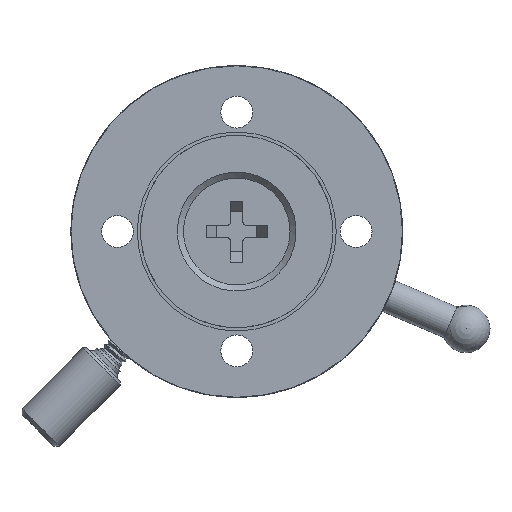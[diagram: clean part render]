
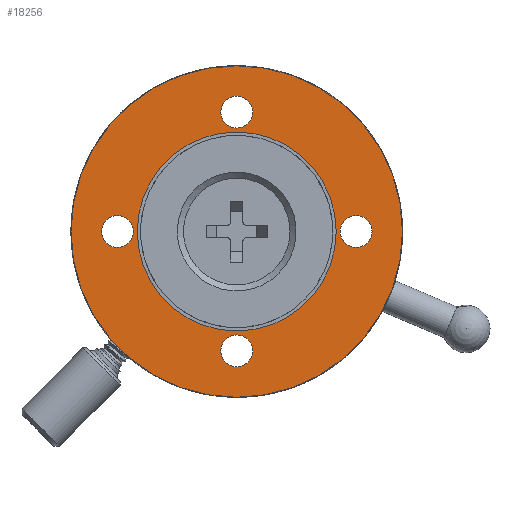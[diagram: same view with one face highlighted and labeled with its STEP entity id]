
A CAD part, front view. The second image highlights one B-rep face of the part: STEP entity #18256.
In plain terms, the highlighted planar face has unit normal (0, -1, 0).
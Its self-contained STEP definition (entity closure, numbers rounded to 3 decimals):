
#609 = CIRCLE ( 'NONE', #14955, 1.2 ) ;
#5056 = DIRECTION ( 'NONE',  ( 0., 1., 0. ) ) ;
#6625 = ORIENTED_EDGE ( 'NONE', *, *, #40249, .T. ) ;
#6843 = FACE_BOUND ( 'NONE', #10046, .T. ) ;
#9526 = CARTESIAN_POINT ( 'NONE',  ( 0., 0., 9. ) ) ;
#10046 = EDGE_LOOP ( 'NONE', ( #38735 ) ) ;
#11558 = VERTEX_POINT ( 'NONE', #65742 ) ;
#12130 = CIRCLE ( 'NONE', #27913, 1.2 ) ;
#13842 = CARTESIAN_POINT ( 'NONE',  ( 0., 0., -9. ) ) ;
#14034 = FACE_BOUND ( 'NONE', #61707, .T. ) ;
#14955 = AXIS2_PLACEMENT_3D ( 'NONE', #9526, #70428, #56583 ) ;
#16984 = CARTESIAN_POINT ( 'NONE',  ( 0., 0., -7.8 ) ) ;
#17707 = DIRECTION ( 'NONE',  ( 0., 0., 1. ) ) ;
#17861 = VERTEX_POINT ( 'NONE', #16984 ) ;
#18256 = ADVANCED_FACE ( 'NONE', ( #68216, #27499, #6843, #34220, #14034, #41367 ), #48528, .F. ) ;
#22740 = ORIENTED_EDGE ( 'NONE', *, *, #49411, .F. ) ;
#24145 = VERTEX_POINT ( 'NONE', #52332 ) ;
#24585 = CARTESIAN_POINT ( 'NONE',  ( -9., 0., 1.2 ) ) ;
#27077 = EDGE_CURVE ( 'NONE', #63114, #63114, #74281, .T. ) ;
#27499 = FACE_BOUND ( 'NONE', #85068, .T. ) ;
#27913 = AXIS2_PLACEMENT_3D ( 'NONE', #13842, #83664, #61756 ) ;
#31933 = AXIS2_PLACEMENT_3D ( 'NONE', #82965, #56110, #55238 ) ;
#32280 = CIRCLE ( 'NONE', #39443, 1.2 ) ;
#33077 = CARTESIAN_POINT ( 'NONE',  ( -9., 0., 0. ) ) ;
#33965 = DIRECTION ( 'NONE',  ( 0., 0., 1. ) ) ;
#34220 = FACE_BOUND ( 'NONE', #42782, .T. ) ;
#36274 = CARTESIAN_POINT ( 'NONE',  ( 0., 0., 12.5 ) ) ;
#38735 = ORIENTED_EDGE ( 'NONE', *, *, #40064, .T. ) ;
#38900 = CARTESIAN_POINT ( 'NONE',  ( 0., 0., -7.5 ) ) ;
#39356 = VERTEX_POINT ( 'NONE', #38900 ) ;
#39443 = AXIS2_PLACEMENT_3D ( 'NONE', #33077, #88539, #33965 ) ;
#40000 = AXIS2_PLACEMENT_3D ( 'NONE', #40010, #5056, #86115 ) ;
#40010 = CARTESIAN_POINT ( 'NONE',  ( 0., 0., 0. ) ) ;
#40064 = EDGE_CURVE ( 'NONE', #11558, #11558, #66403, .T. ) ;
#40249 = EDGE_CURVE ( 'NONE', #24145, #24145, #609, .T. ) ;
#40723 = EDGE_CURVE ( 'NONE', #17861, #17861, #12130, .T. ) ;
#41367 = FACE_OUTER_BOUND ( 'NONE', #74480, .T. ) ;
#42782 = EDGE_LOOP ( 'NONE', ( #88119 ) ) ;
#44136 = ORIENTED_EDGE ( 'NONE', *, *, #27077, .F. ) ;
#48528 = PLANE ( 'NONE',  #31933 ) ;
#49411 = EDGE_CURVE ( 'NONE', #39356, #39356, #73170, .T. ) ;
#50635 = CARTESIAN_POINT ( 'NONE',  ( 0., 0., 0. ) ) ;
#52332 = CARTESIAN_POINT ( 'NONE',  ( 0., 0., 10.2 ) ) ;
#52615 = DIRECTION ( 'NONE',  ( 0., 1., 0. ) ) ;
#55238 = DIRECTION ( 'NONE',  ( 0., 0., 1. ) ) ;
#56016 = DIRECTION ( 'NONE',  ( 0., 0., -1. ) ) ;
#56073 = AXIS2_PLACEMENT_3D ( 'NONE', #50635, #69436, #56016 ) ;
#56110 = DIRECTION ( 'NONE',  ( 0., 1., 0. ) ) ;
#56583 = DIRECTION ( 'NONE',  ( 0., 0., 1. ) ) ;
#58457 = CARTESIAN_POINT ( 'NONE',  ( 9., 0., 0. ) ) ;
#61707 = EDGE_LOOP ( 'NONE', ( #6625 ) ) ;
#61756 = DIRECTION ( 'NONE',  ( 0., 0., 1. ) ) ;
#63114 = VERTEX_POINT ( 'NONE', #36274 ) ;
#63900 = ORIENTED_EDGE ( 'NONE', *, *, #67067, .T. ) ;
#65742 = CARTESIAN_POINT ( 'NONE',  ( 9., 0., 1.2 ) ) ;
#66403 = CIRCLE ( 'NONE', #87861, 1.2 ) ;
#67067 = EDGE_CURVE ( 'NONE', #85889, #85889, #32280, .T. ) ;
#68216 = FACE_BOUND ( 'NONE', #75357, .T. ) ;
#69436 = DIRECTION ( 'NONE',  ( 0., -1., 0. ) ) ;
#70428 = DIRECTION ( 'NONE',  ( 0., 1., 0. ) ) ;
#73170 = CIRCLE ( 'NONE', #56073, 7.5 ) ;
#74281 = CIRCLE ( 'NONE', #40000, 12.5 ) ;
#74480 = EDGE_LOOP ( 'NONE', ( #44136 ) ) ;
#75357 = EDGE_LOOP ( 'NONE', ( #22740 ) ) ;
#82965 = CARTESIAN_POINT ( 'NONE',  ( 0., 0., 0. ) ) ;
#83664 = DIRECTION ( 'NONE',  ( 0., 1., 0. ) ) ;
#85068 = EDGE_LOOP ( 'NONE', ( #63900 ) ) ;
#85889 = VERTEX_POINT ( 'NONE', #24585 ) ;
#86115 = DIRECTION ( 'NONE',  ( 0., 0., 1. ) ) ;
#87861 = AXIS2_PLACEMENT_3D ( 'NONE', #58457, #52615, #17707 ) ;
#88119 = ORIENTED_EDGE ( 'NONE', *, *, #40723, .T. ) ;
#88539 = DIRECTION ( 'NONE',  ( 0., 1., 0. ) ) ;
